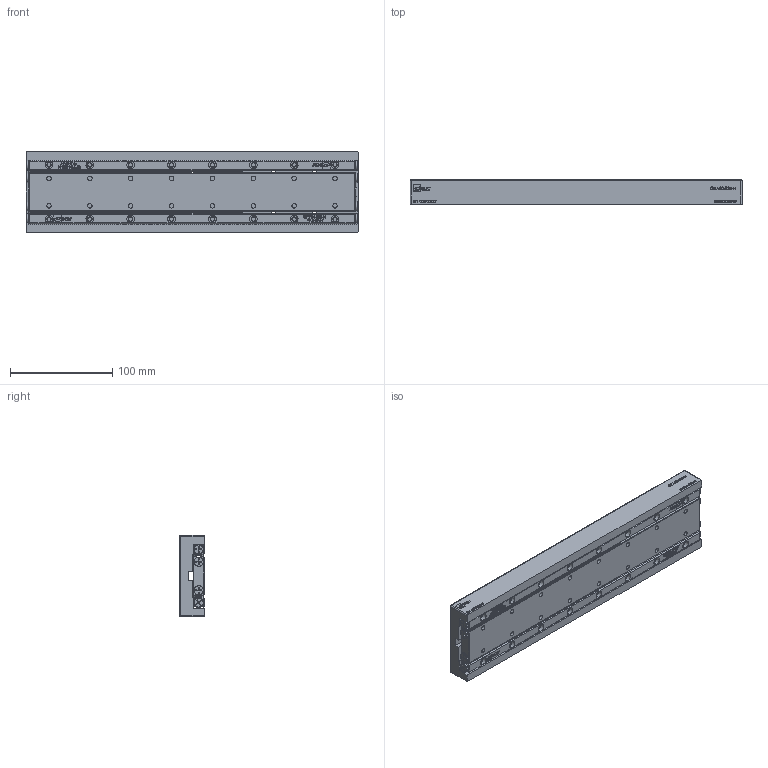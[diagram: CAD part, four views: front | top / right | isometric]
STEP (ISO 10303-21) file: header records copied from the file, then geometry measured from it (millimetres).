
FILE_DESCRIPTION (( 'STEP AP203' ), '1' );
FILE_NAME ('GRA80-325.STEP', '2012-10-19T02:39:13', ( '123' ), ( '' ), 'SwSTEP 2.0', 'SolidWorks 2012', '' );
FILE_SCHEMA (( 'CONFIG_CONTROL_DESIGN' ));
Products named in the file (1): GRA80-325
Bounding box: 325 x 24 x 80 mm (x, y, z)
Surface area: 144417.6 mm2 (no closed solid volume)
Topology: 0 solids, 136 shells, 882 faces, 4940 edges, 4064 vertices
Faces by surface type: plane 569, cylinder 190, torus 64, cone 51, sphere 4, bspline 4
Entity records: 55450 total; most frequent: CARTESIAN_POINT 18411, DIRECTION 7105, ORIENTED_EDGE 6543, EDGE_CURVE 4900, VERTEX_POINT 4064, LINE 3197, VECTOR 3197, AXIS2_PLACEMENT_3D 1954
